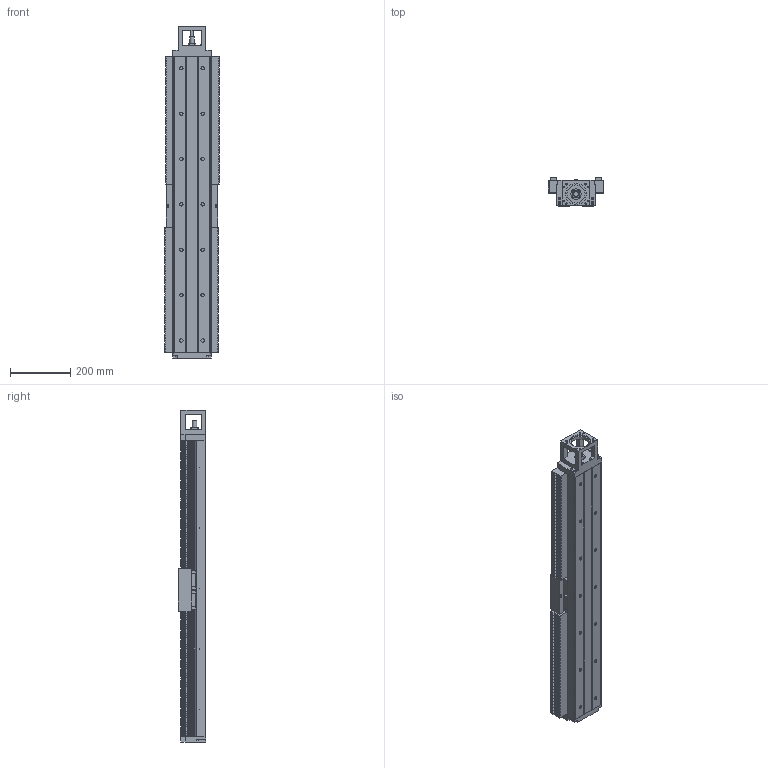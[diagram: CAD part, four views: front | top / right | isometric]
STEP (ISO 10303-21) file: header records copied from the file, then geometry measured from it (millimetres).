
FILE_DESCRIPTION(/* description */ (''),/* implementation_level */ '2;1');
FILE_NAME(/* name */ 'TKK130-980A1F0B.stp',/* time_stamp */ '2017-01-22T16:06:21+08:00',/* author */ (''),/* organization */ (''),/* preprocessor_version */ 'ST-DEVELOPER v15',/* originating_system */ 'SIEMENS PLM Software NX 8.5',/* authorisation */ '');
FILE_SCHEMA (('AUTOMOTIVE_DESIGN { 1 0 10303 214 3 1 1 1 }'));
Length unit declared in the file: millimetre
Products named in the file (3): 022; 011; TKK130-980A1F0B
Assembly tree (2 placements, depth 2):
  TKK130-980A1F0B
    011
    022
Bounding box: 184 x 92 x 1098 mm (x, y, z)
Volume: 10836473.1 mm3; surface area: 1326425.8 mm2
Topology: 5 solids, 49 shells, 2367 faces, 5832 edges, 3582 vertices
Faces by surface type: plane 1882, cylinder 320, cone 125, extrusion 33, bspline 6, torus 1
Full cylindrical faces by diameter (mm): 2.1 x10, 2.5 x8, 3.3 x60, 4.5 x20, 5 x23, 6.6 x10, 6.8 x12, 7 x2, 8 x16, 8.5 x4, 9 x8, 11 x22, 12 x4, 15 x1, 16.3 x1, 17 x16, 17.5 x4, 25 x1, 35 x2, 40 x3, 60.03 x1, 70.03 x1
Entity records: 66416 total; most frequent: CARTESIAN_POINT 12795, DIRECTION 10414, ORIENTED_EDGE 10398, EDGE_CURVE 5199, VECTOR 4336, LINE 4303, VERTEX_POINT 3404, AXIS2_PLACEMENT_3D 3039
